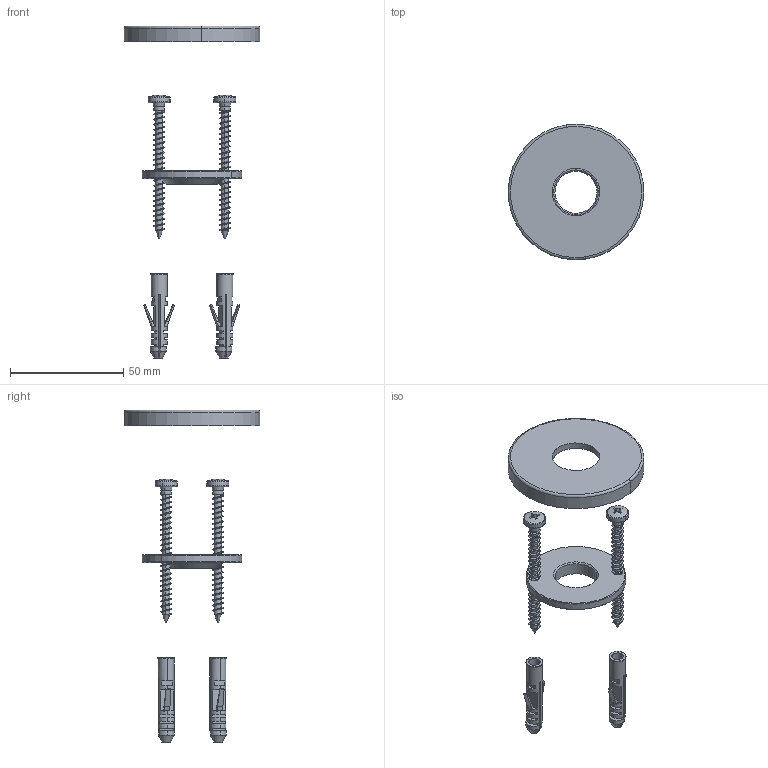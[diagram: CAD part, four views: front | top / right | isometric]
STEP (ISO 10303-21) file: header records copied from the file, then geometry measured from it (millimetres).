
FILE_DESCRIPTION (( 'STEP AP203' ), '1' );
FILE_NAME ('RIN2.STEP', '2025-06-11T07:58:19', ( '' ), ( '' ), 'SwSTEP 2.0', 'SolidWorks 2024', '' );
FILE_SCHEMA (( 'CONFIG_CONTROL_DESIGN' ));
Length unit declared in the file: millimetre
Products named in the file (3): C40.10.0020; RIN2; C40.10.0022.01
Assembly tree (2 placements, depth 2):
  RIN2
    C40.10.0020
    C40.10.0022.01
Bounding box: 59.97 x 59.97 x 146.81 mm (x, y, z)
Volume: 14420.4 mm3; surface area: 16452.3 mm2
Topology: 6 solids, 6 shells, 353 faces, 954 edges, 624 vertices
Faces by surface type: plane 163, cylinder 152, cone 22, bspline 14, torus 2
Entity records: 22515 total; most frequent: CARTESIAN_POINT 13730, ORIENTED_EDGE 1908, DIRECTION 1602, EDGE_CURVE 954, VERTEX_POINT 624, AXIS2_PLACEMENT_3D 580, VECTOR 442, LINE 442
